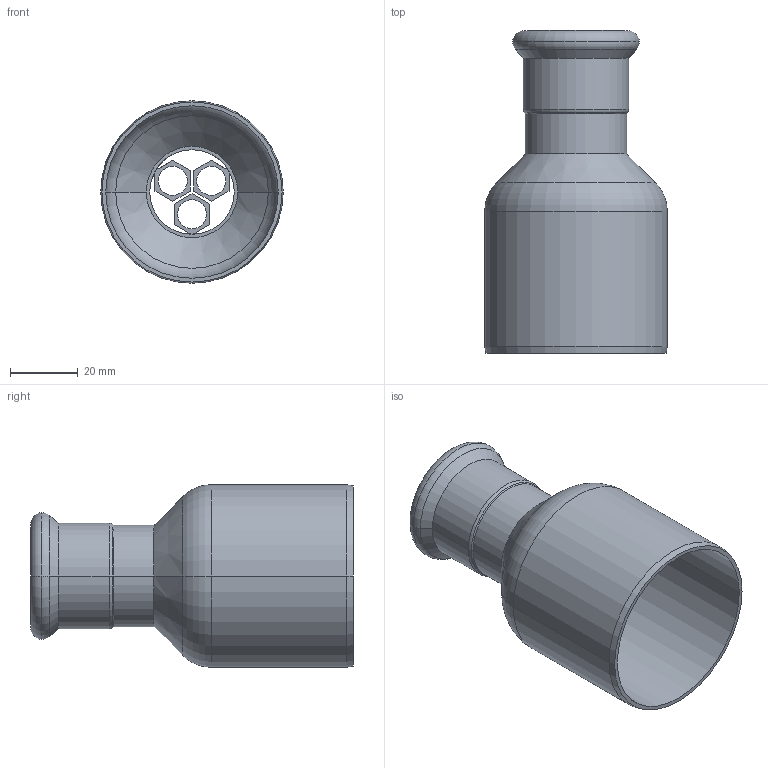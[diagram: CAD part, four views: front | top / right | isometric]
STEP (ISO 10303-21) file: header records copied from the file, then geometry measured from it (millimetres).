
FILE_DESCRIPTION(('OneSpaceDesigner STEP Export'),'2;1');
FILE_NAME('R2707 28x54.stp','2010-06-09T13:36:17',(''),(''),'OneSpace Designer STEP processor for AP214 (Solid Model)','OneSpace Modeling 15.00A 14-Mar-2007 (C) CoCreate Software GmbH','');
FILE_SCHEMA(('AUTOMOTIVE_DESIGN { 1 0 10303 214 1 1 1 1 }'));
Length unit declared in the file: millimetre
Products named in the file (2): R2707_28x54
Assembly tree (1 placements, depth 2):
  R2707_28x54
    R2707_28x54
Bounding box: 54 x 95.5 x 54 mm (x, y, z)
Volume: 22571.9 mm3; surface area: 27898.1 mm2
Topology: 1 solids, 1 shells, 77 faces, 182 edges, 113 vertices
Faces by surface type: plane 32, cylinder 25, cone 10, torus 10
Entity records: 1953 total; most frequent: ORIENTED_EDGE 364, CARTESIAN_POINT 309, DIRECTION 291, EDGE_CURVE 182, VERTEX_POINT 113, VECTOR 101, LINE 101, AXIS2_PLACEMENT_3D 95
